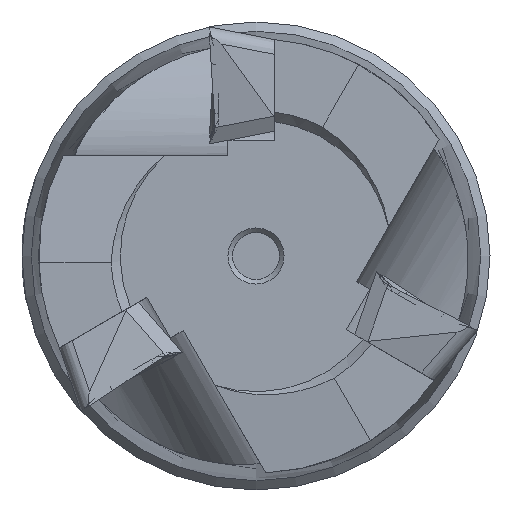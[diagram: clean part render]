
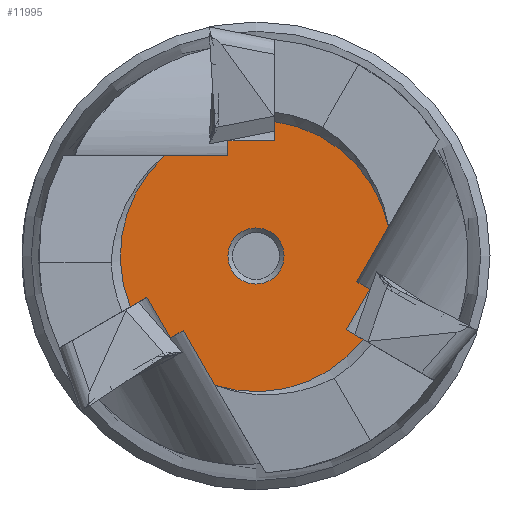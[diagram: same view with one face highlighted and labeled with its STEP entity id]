
A CAD part, left-side view. The second image highlights one B-rep face of the part: STEP entity #11995.
In plain terms, the highlighted planar face has unit normal (-1, 0, 0).
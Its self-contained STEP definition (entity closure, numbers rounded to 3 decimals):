
#385=FACE_BOUND('',#2139,.T.);
#1051=CIRCLE('',#12784,1.5);
#1056=CIRCLE('',#12791,7.25);
#1057=CIRCLE('',#12792,7.25);
#1058=CIRCLE('',#12793,7.25);
#1447=FACE_OUTER_BOUND('',#2138,.T.);
#2138=EDGE_LOOP('',(#7969,#7970,#7971,#7972,#7973,#7974,#7975,#7976,#7977,
#7978,#7979,#7980,#7981,#7982,#7983));
#2139=EDGE_LOOP('',(#7984));
#2877=LINE('',#16043,#3784);
#2884=LINE('',#16107,#3791);
#2893=LINE('',#16180,#3800);
#2900=LINE('',#16209,#3807);
#2901=LINE('',#16211,#3808);
#2902=LINE('',#16212,#3809);
#2903=LINE('',#16216,#3810);
#2904=LINE('',#16218,#3811);
#2905=LINE('',#16219,#3812);
#2906=LINE('',#16223,#3813);
#2907=LINE('',#16225,#3814);
#2908=LINE('',#16226,#3815);
#3784=VECTOR('',#13558,10.);
#3791=VECTOR('',#13573,10.);
#3800=VECTOR('',#13596,10.);
#3807=VECTOR('',#13619,10.);
#3808=VECTOR('',#13620,10.);
#3809=VECTOR('',#13621,10.);
#3810=VECTOR('',#13624,10.);
#3811=VECTOR('',#13625,10.);
#3812=VECTOR('',#13626,10.);
#3813=VECTOR('',#13629,10.);
#3814=VECTOR('',#13630,10.);
#3815=VECTOR('',#13631,10.);
#4742=VERTEX_POINT('',#15974);
#4746=VERTEX_POINT('',#15983);
#4755=VERTEX_POINT('',#16042);
#4765=VERTEX_POINT('',#16106);
#4770=VERTEX_POINT('',#16120);
#4779=VERTEX_POINT('',#16179);
#4784=VERTEX_POINT('',#16193);
#4789=VERTEX_POINT('',#16207);
#4790=VERTEX_POINT('',#16208);
#4791=VERTEX_POINT('',#16210);
#4792=VERTEX_POINT('',#16213);
#4793=VERTEX_POINT('',#16215);
#4794=VERTEX_POINT('',#16217);
#4795=VERTEX_POINT('',#16220);
#4796=VERTEX_POINT('',#16222);
#4797=VERTEX_POINT('',#16224);
#6020=EDGE_CURVE('',#4742,#4755,#2877,.T.);
#6032=EDGE_CURVE('',#4746,#4765,#2884,.T.);
#6048=EDGE_CURVE('',#4770,#4779,#2893,.T.);
#6054=EDGE_CURVE('',#4784,#4784,#1051,.T.);
#6061=EDGE_CURVE('',#4789,#4790,#2900,.T.);
#6062=EDGE_CURVE('',#4791,#4789,#2901,.T.);
#6063=EDGE_CURVE('',#4755,#4791,#2902,.T.);
#6064=EDGE_CURVE('',#4792,#4742,#1056,.T.);
#6065=EDGE_CURVE('',#4793,#4792,#2903,.T.);
#6066=EDGE_CURVE('',#4794,#4793,#2904,.T.);
#6067=EDGE_CURVE('',#4779,#4794,#2905,.T.);
#6068=EDGE_CURVE('',#4795,#4770,#1057,.T.);
#6069=EDGE_CURVE('',#4796,#4795,#2906,.T.);
#6070=EDGE_CURVE('',#4797,#4796,#2907,.T.);
#6071=EDGE_CURVE('',#4765,#4797,#2908,.T.);
#6072=EDGE_CURVE('',#4790,#4746,#1058,.T.);
#7969=ORIENTED_EDGE('',*,*,#6061,.F.);
#7970=ORIENTED_EDGE('',*,*,#6062,.F.);
#7971=ORIENTED_EDGE('',*,*,#6063,.F.);
#7972=ORIENTED_EDGE('',*,*,#6020,.F.);
#7973=ORIENTED_EDGE('',*,*,#6064,.F.);
#7974=ORIENTED_EDGE('',*,*,#6065,.F.);
#7975=ORIENTED_EDGE('',*,*,#6066,.F.);
#7976=ORIENTED_EDGE('',*,*,#6067,.F.);
#7977=ORIENTED_EDGE('',*,*,#6048,.F.);
#7978=ORIENTED_EDGE('',*,*,#6068,.F.);
#7979=ORIENTED_EDGE('',*,*,#6069,.F.);
#7980=ORIENTED_EDGE('',*,*,#6070,.F.);
#7981=ORIENTED_EDGE('',*,*,#6071,.F.);
#7982=ORIENTED_EDGE('',*,*,#6032,.F.);
#7983=ORIENTED_EDGE('',*,*,#6072,.F.);
#7984=ORIENTED_EDGE('',*,*,#6054,.F.);
#11697=PLANE('',#12790);
#11995=ADVANCED_FACE('',(#1447,#385),#11697,.T.);
#12784=AXIS2_PLACEMENT_3D('',#16194,#13603,#13604);
#12790=AXIS2_PLACEMENT_3D('',#16206,#13617,#13618);
#12791=AXIS2_PLACEMENT_3D('',#16214,#13622,#13623);
#12792=AXIS2_PLACEMENT_3D('',#16221,#13627,#13628);
#12793=AXIS2_PLACEMENT_3D('',#16227,#13632,#13633);
#13558=DIRECTION('',(0.,-1.,0.));
#13573=DIRECTION('',(0.,0.5,-0.866));
#13596=DIRECTION('',(0.,0.5,0.866));
#13603=DIRECTION('center_axis',(-1.,0.,0.));
#13604=DIRECTION('ref_axis',(0.,0.,
-1.));
#13617=DIRECTION('center_axis',(-1.,0.,0.));
#13618=DIRECTION('ref_axis',(0.,0.,1.));
#13619=DIRECTION('',(0.,0.,1.));
#13620=DIRECTION('',(0.,-1.,0.));
#13621=DIRECTION('',(0.,0.,1.));
#13622=DIRECTION('center_axis',(1.,0.,0.));
#13623=DIRECTION('ref_axis',(0.,0.,
1.));
#13624=DIRECTION('',(0.,0.866,-0.5));
#13625=DIRECTION('',(0.,0.5,0.866));
#13626=DIRECTION('',(0.,0.866,-0.5));
#13627=DIRECTION('center_axis',(1.,0.,0.));
#13628=DIRECTION('ref_axis',(0.,0.,
1.));
#13629=DIRECTION('',(0.,-0.866,-0.5));
#13630=DIRECTION('',(0.,0.5,-0.866));
#13631=DIRECTION('',(0.,-0.866,-0.5));
#13632=DIRECTION('center_axis',(1.,0.,0.));
#13633=DIRECTION('ref_axis',(0.,0.,
1.));
#15974=CARTESIAN_POINT('',(-159.5,4.893,5.35));
#15983=CARTESIAN_POINT('',(-159.5,-7.08,1.562));
#16042=CARTESIAN_POINT('',(-159.5,1.5,5.35));
#16043=CARTESIAN_POINT('',(-159.5,6.25,5.35));
#16106=CARTESIAN_POINT('',(-159.5,-5.383,-1.376));
#16107=CARTESIAN_POINT('',(-159.5,-7.758,2.738));
#16120=CARTESIAN_POINT('',(-159.5,2.187,-6.912));
#16179=CARTESIAN_POINT('',(-159.5,3.883,-3.974));
#16180=CARTESIAN_POINT('',(-159.5,1.508,-8.088));
#16193=CARTESIAN_POINT('',(-159.5,0.,1.5));
#16194=CARTESIAN_POINT('Origin',(-159.5,0.,0.));
#16206=CARTESIAN_POINT('Origin',(-159.5,0.,0.));
#16207=CARTESIAN_POINT('',(-159.5,-1.,6.15));
#16208=CARTESIAN_POINT('',(-159.5,-1.,7.181));
#16209=CARTESIAN_POINT('',(-159.5,-1.,4.213));
#16210=CARTESIAN_POINT('',(-159.5,1.5,6.15));
#16211=CARTESIAN_POINT('',(-159.5,0.75,6.15));
#16212=CARTESIAN_POINT('',(-159.5,1.5,4.177));
#16213=CARTESIAN_POINT('',(-159.5,6.719,-2.724));
#16214=CARTESIAN_POINT('Origin',(-159.5,0.,0.));
#16215=CARTESIAN_POINT('',(-159.5,5.826,-2.209));
#16216=CARTESIAN_POINT('',(-159.5,4.149,-1.241));
#16217=CARTESIAN_POINT('',(-159.5,4.576,-4.374));
#16218=CARTESIAN_POINT('',(-159.5,4.951,-3.725));
#16219=CARTESIAN_POINT('',(-159.5,2.867,-3.388));
#16220=CARTESIAN_POINT('',(-159.5,-5.719,-4.456));
#16221=CARTESIAN_POINT('Origin',(-159.5,0.,0.));
#16222=CARTESIAN_POINT('',(-159.5,-4.826,-3.941));
#16223=CARTESIAN_POINT('',(-159.5,-3.149,-2.973));
#16224=CARTESIAN_POINT('',(-159.5,-6.076,-1.776));
#16225=CARTESIAN_POINT('',(-159.5,-5.701,-2.425));
#16226=CARTESIAN_POINT('',(-159.5,-4.367,-0.789));
#16227=CARTESIAN_POINT('Origin',(-159.5,0.,0.));
